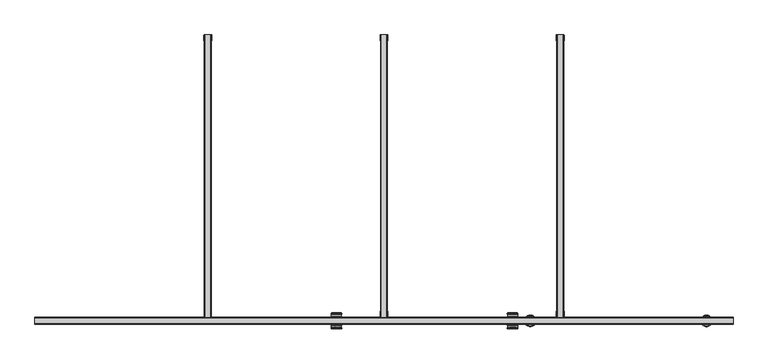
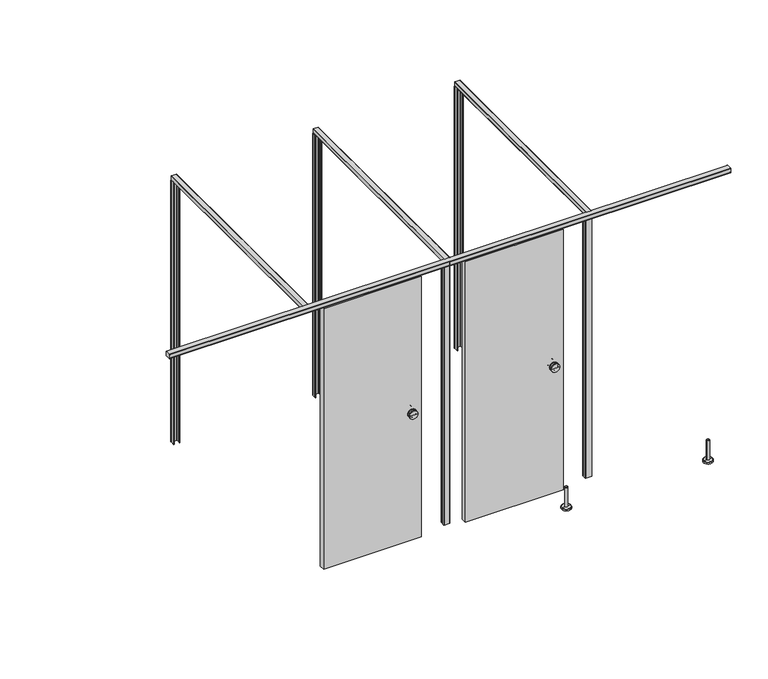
"""IFC4 building model written with IfcOpenShell, lengths in millimetres: proxy geometry, Partition_EuroStyle-Bradley_Corp-4StandardStall-NEP-LOFT : Partition_EuroStyle-Bradley_Corp-4StandardStall-NEP-LOFT."""

from ifc_helpers import new_model, si_unit, point, frame, frame_2d, origin, place, context, project, spatial, polyline, circle_curve, ellipse_curve, trimmed, segment, composite_curve, outline, extrude, source, transform, mapped, element, save
from ifc_brep_helpers import plane_surface, cylinder_surface, revolved_surface, advanced_brep


def specialty_equipment_258c1c85(model_context):
    return source(origin(), model_context, "Body", "SolidModel", [
        extrude(outline(composite_curve([segment(polyline([(2685.7288796, -1491.4999998), (2687.2274652, -1491.4999998)]), True, "CONTINUOUS"), segment(trimmed(circle_curve(frame_2d((2687.2238978, -1492.4990918)), 0.9990984), [point((2687.2274652, -1491.4999998))], [point((2687.6975504, -1493.3787798))], False, "CARTESIAN"), True, "CONTINUOUS"), segment(polyline([(2687.6975504, -1493.3787798), (2687.5764404, -1500.6424298)]), True, "CONTINUOUS"), segment(trimmed(circle_curve(frame_2d((2687.0588945, -1501.4999449)), 1.0015917), [point((2687.5764404, -1500.6424298))], [point((2687.5475604, -1502.3742398))], False, "CARTESIAN"), True, "CONTINUOUS"), segment(polyline([(2687.5475604, -1502.3742398), (2687.2535049, -1520.0104531)]), True, "CONTINUOUS"), segment(trimmed(circle_curve(frame_2d((2689.2536968, -1519.9997796)), 2.0002204), [point((2687.2535049, -1520.0104531))], [point((2689.2536968, -1522.0))], True, "CARTESIAN"), True, "CONTINUOUS"), segment(polyline([(2689.2536968, -1522.0), (2723.1379958, -1522.0)]), True, "CONTINUOUS"), segment(trimmed(circle_curve(frame_2d((2723.1870154, -1520.0009061)), 1.9996948), [point((2723.1379958, -1522.0))], [point((2725.18671, -1520.0))], True, "CARTESIAN"), True, "CONTINUOUS"), segment(polyline([(2725.18671, -1520.0), (2724.8926587, -1502.3739987)]), True, "CONTINUOUS"), segment(trimmed(circle_curve(frame_2d((2725.3817558, -1501.4999449)), 1.0015917), [point((2724.8926587, -1502.3739987))], [point((2724.8642099, -1500.6424298))], False, "CARTESIAN"), True, "CONTINUOUS"), segment(polyline([(2724.8642099, -1500.6424298), (2724.7430999, -1493.3787798)]), True, "CONTINUOUS"), segment(trimmed(circle_curve(frame_2d((2725.2167525, -1492.4990918)), 0.9990984), [point((2724.7430999, -1493.3787798))], [point((2725.2131851, -1491.4999998))], False, "CARTESIAN"), True, "CONTINUOUS"), segment(polyline([(2725.2131851, -1491.4999998), (2726.7117707, -1491.4999998), (2727.2201098, -1521.97082)]), True, "CONTINUOUS"), segment(trimmed(circle_curve(frame_2d((2725.1909298, -1521.97082)), 2.02918), [point((2727.2201098, -1521.97082))], [point((2725.1909298, -1524.0))], False, "CARTESIAN"), True, "CONTINUOUS"), segment(polyline([(2725.1909298, -1524.0), (2687.2497205, -1524.0)]), True, "CONTINUOUS"), segment(trimmed(circle_curve(frame_2d((2687.2497205, -1521.97082)), 2.02918), [point((2687.2497205, -1524.0))], [point((2685.2205405, -1521.97082))], False, "CARTESIAN"), True, "CONTINUOUS"), segment(polyline([(2685.2205405, -1521.97082), (2685.7288796, -1491.4999998)]), True, "CONTINUOUS")], self_intersect=False)), frame((0.0, 0.0, 150.0), z_axis=(0.0, 0.0, 1.0), x_axis=(1.0, 0.0, 0.0)), (0.0, 0.0, 1.0), 1855.0),
        advanced_brep(
        [(3486.2453255, -1541.9996549, 150.0000008), (3504.2453248, -1541.9996549, 150.0000008), (3504.2453248, -1541.9996549, 12.0000001), (3486.2453255, -1541.9996549, 12.0000001), (3495.2453251, -1541.9996549, 150.0000008), (3464.2453262, -1541.9996549, 0.0), (3526.2453241, -1541.9996549, 0.0), (3495.2453251, -1541.9996549, 0.0), (3464.2453262, -1541.9996549, 10.0000001), (3526.2453241, -1541.9996549, 10.0000001), (3466.2477381, -1541.9996549, 12.0000001), (3524.2429122, -1541.9996549, 12.0000001)],
        [
            (0, 1, circle_curve(frame((3495.2453251, -1541.9996549, 150.0000008), z_axis=(0.0, 0.0, -1.0), x_axis=(1.0, 0.0, 0.0)), 8.9999997)),
            (1, 2),
            (2, 3, circle_curve(frame((3495.2453251, -1541.9996549, 12.0000001), z_axis=(0.0, 0.0, 1.0), x_axis=(1.0, 0.0, 0.0)), 8.9999997)),
            (3, 0),
            (1, 0, circle_curve(frame((3495.2453251, -1541.9996549, 150.0000008), z_axis=(0.0, 0.0, -1.0), x_axis=(1.0, 0.0, 0.0)), 8.9999997)),
            (3, 2, circle_curve(frame((3495.2453251, -1541.9996549, 12.0000001), z_axis=(0.0, 0.0, 1.0), x_axis=(1.0, 0.0, 0.0)), 8.9999997)),
            (4, 1),
            (0, 4),
            (5, 6, circle_curve(frame((3495.2453251, -1541.9996549, 0.0), z_axis=(0.0, 0.0, -1.0), x_axis=(1.0, 0.0, 0.0)), 30.9999989)),
            (6, 7),
            (7, 5),
            (6, 5, circle_curve(frame((3495.2453251, -1541.9996549, 0.0), z_axis=(0.0, 0.0, -1.0), x_axis=(1.0, 0.0, 0.0)), 30.9999989)),
            (8, 9, circle_curve(frame((3495.2453251, -1541.9996549, 10.0000001), z_axis=(0.0, 0.0, -1.0), x_axis=(1.0, 0.0, 0.0)), 30.9999989)),
            (9, 6),
            (5, 8),
            (9, 8, circle_curve(frame((3495.2453251, -1541.9996549, 10.0000001), z_axis=(0.0, 0.0, -1.0), x_axis=(1.0, 0.0, 0.0)), 30.9999989)),
            (10, 11, circle_curve(frame((3495.2453251, -1541.9996549, 12.0000001), z_axis=(0.0, 0.0, -1.0), x_axis=(1.0, 0.0, 0.0)), 28.997587)),
            (11, 9),
            (8, 10),
            (11, 10, circle_curve(frame((3495.2453251, -1541.9996549, 12.0000001), z_axis=(0.0, 0.0, -1.0), x_axis=(1.0, 0.0, 0.0)), 28.997587)),
            (2, 11),
            (10, 3),
        ],
        [
            cylinder_surface(frame((3495.2453251, -1541.9996549, 0.0), z_axis=(0.0, 0.0, 1.0), x_axis=(1.0, 0.0, 0.0)), 8.9999997),
            plane_surface(frame((3495.2453251, -1541.9996549, 150.0000008), z_axis=(0.0, 0.0, 1.0), x_axis=(1.0, 0.0, 0.0))),
            plane_surface(frame((3495.2453251, -1541.9996549, 0.0), z_axis=(0.0, 0.0, -1.0), x_axis=(1.0, 0.0, 0.0))),
            cylinder_surface(frame((3495.2453251, -1541.9996549, 0.0), z_axis=(0.0, 0.0, 1.0), x_axis=(1.0, 0.0, 0.0)), 30.9999989),
            revolved_surface(polyline([(3526.2453241, -1541.9996549, 10.0000001), (3524.2429122, -1541.9996549, 12.0000001)]), (3495.2453251, -1541.9996549, 0.0), (0.0, 0.0, 1.0)),
            plane_surface(frame((3495.2453251, -1541.9996549, 12.0000001), z_axis=(0.0, 0.0, 1.0), x_axis=(1.0, 0.0, 0.0))),
        ],
        [
            (0, [[1, 2, 3, 4]]),
            (0, [[5, -4, 6, -2]]),
            (1, [[7, -1, 8]]),
            (1, [[-8, -5, -7]]),
            (2, [[9, 10, 11]]),
            (2, [[12, -11, -10]]),
            (3, [[13, 14, -9, 15]]),
            (3, [[16, -15, -12, -14]]),
            (4, [[17, 18, -13, 19]]),
            (4, [[20, -19, -16, -18]]),
            (5, [[-3, 21, -17, 22]]),
            (5, [[-6, -22, -20, -21]]),
        ],
    ),
        extrude(outline(composite_curve([segment(polyline([(1735.3288796, -1491.4999998), (1736.8274652, -1491.4999998)]), True, "CONTINUOUS"), segment(trimmed(circle_curve(frame_2d((1736.8238978, -1492.4990918)), 0.9990984), [point((1736.8274652, -1491.4999998))], [point((1737.2975504, -1493.3787798))], False, "CARTESIAN"), True, "CONTINUOUS"), segment(polyline([(1737.2975504, -1493.3787798), (1737.1764404, -1500.6424298)]), True, "CONTINUOUS"), segment(trimmed(circle_curve(frame_2d((1736.6588945, -1501.4999449)), 1.0015917), [point((1737.1764404, -1500.6424298))], [point((1737.1475604, -1502.3742398))], False, "CARTESIAN"), True, "CONTINUOUS"), segment(polyline([(1737.1475604, -1502.3742398), (1736.8535049, -1520.0104531)]), True, "CONTINUOUS"), segment(trimmed(circle_curve(frame_2d((1738.8536968, -1519.9997796)), 2.0002204), [point((1736.8535049, -1520.0104531))], [point((1738.8536968, -1522.0))], True, "CARTESIAN"), True, "CONTINUOUS"), segment(polyline([(1738.8536968, -1522.0), (1772.7379958, -1522.0)]), True, "CONTINUOUS"), segment(trimmed(circle_curve(frame_2d((1772.7870154, -1520.0009061)), 1.9996948), [point((1772.7379958, -1522.0))], [point((1774.78671, -1520.0))], True, "CARTESIAN"), True, "CONTINUOUS"), segment(polyline([(1774.78671, -1520.0), (1774.4926587, -1502.3739987)]), True, "CONTINUOUS"), segment(trimmed(circle_curve(frame_2d((1774.9817558, -1501.4999449)), 1.0015917), [point((1774.4926587, -1502.3739987))], [point((1774.4642099, -1500.6424298))], False, "CARTESIAN"), True, "CONTINUOUS"), segment(polyline([(1774.4642099, -1500.6424298), (1774.3430999, -1493.3787798)]), True, "CONTINUOUS"), segment(trimmed(circle_curve(frame_2d((1774.8167525, -1492.4990918)), 0.9990984), [point((1774.3430999, -1493.3787798))], [point((1774.8131851, -1491.4999998))], False, "CARTESIAN"), True, "CONTINUOUS"), segment(polyline([(1774.8131851, -1491.4999998), (1776.3117707, -1491.4999998), (1776.8201098, -1521.97082)]), True, "CONTINUOUS"), segment(trimmed(circle_curve(frame_2d((1774.7909298, -1521.97082)), 2.02918), [point((1776.8201098, -1521.97082))], [point((1774.7909298, -1524.0))], False, "CARTESIAN"), True, "CONTINUOUS"), segment(polyline([(1774.7909298, -1524.0), (1736.8497205, -1524.0)]), True, "CONTINUOUS"), segment(trimmed(circle_curve(frame_2d((1736.8497205, -1521.97082)), 2.02918), [point((1736.8497205, -1524.0))], [point((1734.8205405, -1521.97082))], False, "CARTESIAN"), True, "CONTINUOUS"), segment(polyline([(1734.8205405, -1521.97082), (1735.3288796, -1491.4999998)]), True, "CONTINUOUS")], self_intersect=False)), frame((0.0, 0.0, 150.0), z_axis=(0.0, 0.0, 1.0), x_axis=(1.0, 0.0, 0.0)), (0.0, 0.0, 1.0), 1855.0),
        advanced_brep(
        [(2420.8451766, -1524.0098174, 1050.0), (2477.9951766, -1524.0098174, 1050.0), (2449.4201766, -1524.0098174, 1050.0), (2420.8451766, -1519.2473174, 1050.0), (2477.9951766, -1519.2473174, 1050.0), (2420.8451766, -1500.1973174, 1050.0), (2477.9951766, -1500.1973174, 1050.0), (2477.9951766, -1504.9598174, 1050.0), (2420.8451766, -1504.9598174, 1050.0), (2476.4076766, -1506.5473174, 1050.0), (2422.4326766, -1506.5473174, 1050.0), (2476.4076766, -1517.6598174, 1050.0), (2422.4326766, -1517.6598174, 1050.0), (2449.4201766, -1498.6098174, 1050.0)],
        [
            (0, 1, circle_curve(frame((2449.4201766, -1524.0098174, 1050.0), z_axis=(0.0, -1.0, 0.0), x_axis=(1.0000000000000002, 0.0, 0.0)), 28.575)),
            (1, 2),
            (2, 0),
            (1, 0, circle_curve(frame((2449.4201766, -1524.0098174, 1050.0), z_axis=(0.0, -1.0, 0.0), x_axis=(1.0000000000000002, 0.0, 0.0)), 28.575)),
            (3, 4, circle_curve(frame((2449.4201766, -1519.2473174, 1050.0), z_axis=(0.0, -1.0, 0.0), x_axis=(1.0000000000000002, 0.0, 0.0)), 28.575)),
            (4, 1),
            (0, 3),
            (4, 3, circle_curve(frame((2449.4201766, -1519.2473174, 1050.0), z_axis=(0.0, -1.0, 0.0), x_axis=(1.0000000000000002, 0.0, 0.0)), 28.575)),
            (5, 6, circle_curve(frame((2449.4201766, -1500.1973174, 1050.0), z_axis=(0.0, -1.0, 0.0), x_axis=(1.0000000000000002, 0.0, 0.0)), 28.575)),
            (6, 7),
            (7, 8, circle_curve(frame((2449.4201766, -1504.9598174, 1050.0), z_axis=(0.0, 1.0, 0.0), x_axis=(1.0000000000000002, 0.0, 0.0)), 28.575)),
            (8, 5),
            (6, 5, circle_curve(frame((2449.4201766, -1500.1973174, 1050.0), z_axis=(0.0, -1.0, 0.0), x_axis=(1.0000000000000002, 0.0, 0.0)), 28.575)),
            (8, 7, circle_curve(frame((2449.4201766, -1504.9598174, 1050.0), z_axis=(0.0, 1.0, 0.0), x_axis=(1.0000000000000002, 0.0, 0.0)), 28.575)),
            (7, 9, circle_curve(frame((2477.9951766, -1506.5473174, 1050.0), z_axis=(0.0, 0.0, 1.0), x_axis=(1.0000000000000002, 0.0, 0.0)), 1.5875)),
            (9, 10, circle_curve(frame((2449.4201766, -1506.5473174, 1050.0), z_axis=(0.0, 1.0, 0.0), x_axis=(1.0000000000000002, 0.0, 0.0)), 26.9875)),
            (10, 8, circle_curve(frame((2420.8451766, -1506.5473174, 1050.0), z_axis=(0.0, 0.0, 1.0), x_axis=(-1.0000000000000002, 0.0, 0.0)), 1.5875)),
            (10, 9, circle_curve(frame((2449.4201766, -1506.5473174, 1050.0), z_axis=(0.0, 1.0, 0.0), x_axis=(1.0000000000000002, 0.0, 0.0)), 26.9875)),
            (9, 11),
            (11, 12, circle_curve(frame((2449.4201766, -1517.6598174, 1050.0), z_axis=(0.0, 1.0, 0.0), x_axis=(1.0000000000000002, 0.0, 0.0)), 26.9875)),
            (12, 10),
            (12, 11, circle_curve(frame((2449.4201766, -1517.6598174, 1050.0), z_axis=(0.0, 1.0, 0.0), x_axis=(1.0000000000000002, 0.0, 0.0)), 26.9875)),
            (11, 4, circle_curve(frame((2477.9951766, -1517.6598174, 1050.0), z_axis=(0.0, 0.0, 1.0), x_axis=(1.0000000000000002, 0.0, 0.0)), 1.5875)),
            (3, 12, circle_curve(frame((2420.8451766, -1517.6598174, 1050.0), z_axis=(0.0, 0.0, 1.0), x_axis=(-1.0000000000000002, 0.0, 0.0)), 1.5875)),
            (13, 6, circle_curve(frame((2453.1143, -1690.0843466, 1050.0), z_axis=(0.0, 0.0, -1.0), x_axis=(1.0000000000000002, 0.0, 0.0)), 191.5101613)),
            (5, 13, circle_curve(frame((2445.7260533, -1690.0843466, 1050.0), z_axis=(0.0, 0.0, -1.0), x_axis=(-1.0000000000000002, 0.0, 0.0)), 191.5101613)),
        ],
        [
            plane_surface(frame((2449.4201766, -1524.0098174, 1050.0), z_axis=(0.0, -1.0, 0.0), x_axis=(1.0, 0.0, 0.0))),
            cylinder_surface(frame((2449.4201766, -1524.0098174, 1050.0), z_axis=(0.0, 1.0000000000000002, 0.0), x_axis=(1.0000000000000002, 0.0, 0.0)), 28.575),
            revolved_surface(trimmed(ellipse_curve(frame((2477.9951766, -1506.5473174, 1050.0), z_axis=(0.0, 0.0, -1.0), x_axis=(1.0000000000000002, 0.0, 0.0)), 1.5875, 1.5875), [point((2476.4076766, -1506.5473174, 1050.0))], [point((2477.9951766, -1504.9598174, 1050.0))], True, "CARTESIAN"), (2449.4201766, -1524.0098174, 1050.0), (0.0, 1.0000000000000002, 0.0)),
            cylinder_surface(frame((2449.4201766, -1524.0098174, 1050.0), z_axis=(0.0, 1.0000000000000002, 0.0), x_axis=(1.0000000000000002, 0.0, 0.0)), 26.9875),
            revolved_surface(trimmed(ellipse_curve(frame((2477.9951766, -1517.6598174, 1050.0), z_axis=(0.0, 0.0, -1.0), x_axis=(1.0000000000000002, 0.0, 0.0)), 1.5875, 1.5875), [point((2477.9951766, -1519.2473174, 1050.0))], [point((2476.4076766, -1517.6598174, 1050.0))], True, "CARTESIAN"), (2449.4201766, -1524.0098174, 1050.0), (0.0, 1.0000000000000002, 0.0)),
            revolved_surface(trimmed(ellipse_curve(frame((2453.1143, -1690.0843466, 1050.0), z_axis=(0.0, 0.0, 1.0), x_axis=(1.0000000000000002, 0.0, 0.0)), 191.5101613, 191.5101613), [point((2477.9951766, -1500.1973174, 1050.0))], [point((2449.4201766, -1498.6098174, 1050.0))], True, "CARTESIAN"), (2449.4201766, -1524.0098174, 1050.0), (0.0, 1.0000000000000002, 0.0)),
        ],
        [
            (0, [[1, 2, 3]]),
            (0, [[4, -3, -2]]),
            (1, [[5, 6, -1, 7]]),
            (1, [[8, -7, -4, -6]]),
            (1, [[9, 10, 11, 12]]),
            (1, [[13, -12, 14, -10]]),
            (2, [[-11, 15, 16, 17]]),
            (2, [[-14, -17, 18, -15]]),
            (3, [[-16, 19, 20, 21]]),
            (3, [[-18, -21, 22, -19]]),
            (4, [[-20, 23, -5, 24]]),
            (4, [[-22, -24, -8, -23]]),
            (5, [[25, -9, 26]]),
            (5, [[-26, -13, -25]]),
        ],
    ),
        advanced_brep(
        [(2449.4201766, -1560.0098174, 1050.0), (2477.9951766, -1560.0098174, 1050.0), (2420.8451766, -1560.0098174, 1050.0), (2477.9951766, -1564.7723174, 1050.0), (2420.8451766, -1564.7723174, 1050.0), (2420.8451766, -1579.0598174, 1050.0), (2477.9951766, -1579.0598174, 1050.0), (2477.9951766, -1583.8223174, 1050.0), (2420.8451766, -1583.8223174, 1050.0), (2422.4326766, -1577.4723174, 1050.0), (2476.4076766, -1577.4723174, 1050.0), (2422.4326766, -1566.3598174, 1050.0), (2476.4076766, -1566.3598174, 1050.0), (2449.4201766, -1585.4098174, 1050.0)],
        [
            (0, 1),
            (1, 2, circle_curve(frame((2449.4201766, -1560.0098174, 1050.0), z_axis=(0.0, 1.0, 0.0), x_axis=(1.0000000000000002, 0.0, 0.0)), 28.575)),
            (2, 0),
            (2, 1, circle_curve(frame((2449.4201766, -1560.0098174, 1050.0), z_axis=(0.0, 1.0, 0.0), x_axis=(1.0000000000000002, 0.0, 0.0)), 28.575)),
            (1, 3),
            (3, 4, circle_curve(frame((2449.4201766, -1564.7723174, 1050.0), z_axis=(0.0, 1.0, 0.0), x_axis=(1.0000000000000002, 0.0, 0.0)), 28.575)),
            (4, 2),
            (4, 3, circle_curve(frame((2449.4201766, -1564.7723174, 1050.0), z_axis=(0.0, 1.0, 0.0), x_axis=(1.0000000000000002, 0.0, 0.0)), 28.575)),
            (5, 6, circle_curve(frame((2449.4201766, -1579.0598174, 1050.0), z_axis=(0.0, -1.0, 0.0), x_axis=(1.0000000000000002, 0.0, 0.0)), 28.575)),
            (6, 7),
            (7, 8, circle_curve(frame((2449.4201766, -1583.8223174, 1050.0), z_axis=(0.0, 1.0, 0.0), x_axis=(1.0000000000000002, 0.0, 0.0)), 28.575)),
            (8, 5),
            (6, 5, circle_curve(frame((2449.4201766, -1579.0598174, 1050.0), z_axis=(0.0, -1.0, 0.0), x_axis=(1.0000000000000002, 0.0, 0.0)), 28.575)),
            (8, 7, circle_curve(frame((2449.4201766, -1583.8223174, 1050.0), z_axis=(0.0, 1.0, 0.0), x_axis=(1.0000000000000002, 0.0, 0.0)), 28.575)),
            (9, 10, circle_curve(frame((2449.4201766, -1577.4723174, 1050.0), z_axis=(0.0, -1.0, 0.0), x_axis=(1.0000000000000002, 0.0, 0.0)), 26.9875)),
            (10, 6, circle_curve(frame((2477.9951766, -1577.4723174, 1050.0), z_axis=(0.0, 0.0, 1.0), x_axis=(1.0000000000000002, 0.0, 0.0)), 1.5875)),
            (5, 9, circle_curve(frame((2420.8451766, -1577.4723174, 1050.0), z_axis=(0.0, 0.0, 1.0), x_axis=(-1.0000000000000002, 0.0, 0.0)), 1.5875)),
            (10, 9, circle_curve(frame((2449.4201766, -1577.4723174, 1050.0), z_axis=(0.0, -1.0, 0.0), x_axis=(1.0000000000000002, 0.0, 0.0)), 26.9875)),
            (11, 12, circle_curve(frame((2449.4201766, -1566.3598174, 1050.0), z_axis=(0.0, -1.0, 0.0), x_axis=(1.0000000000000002, 0.0, 0.0)), 26.9875)),
            (12, 10),
            (9, 11),
            (12, 11, circle_curve(frame((2449.4201766, -1566.3598174, 1050.0), z_axis=(0.0, -1.0, 0.0), x_axis=(1.0000000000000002, 0.0, 0.0)), 26.9875)),
            (3, 12, circle_curve(frame((2477.9951766, -1566.3598174, 1050.0), z_axis=(0.0, 0.0, 1.0), x_axis=(1.0000000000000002, 0.0, 0.0)), 1.5875)),
            (11, 4, circle_curve(frame((2420.8451766, -1566.3598174, 1050.0), z_axis=(0.0, 0.0, 1.0), x_axis=(-1.0000000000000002, 0.0, 0.0)), 1.5875)),
            (7, 13, circle_curve(frame((2453.1143, -1393.9352882, 1050.0), z_axis=(0.0, 0.0, -1.0), x_axis=(1.0000000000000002, 0.0, 0.0)), 191.5101613)),
            (13, 8, circle_curve(frame((2445.7260533, -1393.9352882, 1050.0), z_axis=(0.0, 0.0, -1.0), x_axis=(-1.0000000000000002, 0.0, 0.0)), 191.5101613)),
        ],
        [
            plane_surface(frame((2449.4201766, -1560.0098174, 1050.0), z_axis=(0.0, 1.0, 0.0), x_axis=(1.0, 0.0, 0.0))),
            cylinder_surface(frame((2449.4201766, -1560.0098174, 1050.0), z_axis=(0.0, 1.0000000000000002, 0.0), x_axis=(1.0000000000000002, 0.0, 0.0)), 28.575),
            revolved_surface(trimmed(ellipse_curve(frame((2477.9951766, -1577.4723174, 1050.0), z_axis=(0.0, 0.0, -1.0), x_axis=(1.0000000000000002, 0.0, 0.0)), 1.5875, 1.5875), [point((2477.9951766, -1579.0598174, 1050.0))], [point((2476.4076766, -1577.4723174, 1050.0))], True, "CARTESIAN"), (2449.4201766, -1560.0098174, 1050.0), (0.0, 1.0000000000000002, 0.0)),
            cylinder_surface(frame((2449.4201766, -1560.0098174, 1050.0), z_axis=(0.0, 1.0000000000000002, 0.0), x_axis=(1.0000000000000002, 0.0, 0.0)), 26.9875),
            revolved_surface(trimmed(ellipse_curve(frame((2477.9951766, -1566.3598174, 1050.0), z_axis=(0.0, 0.0, -1.0), x_axis=(1.0000000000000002, 0.0, 0.0)), 1.5875, 1.5875), [point((2476.4076766, -1566.3598174, 1050.0))], [point((2477.9951766, -1564.7723174, 1050.0))], True, "CARTESIAN"), (2449.4201766, -1560.0098174, 1050.0), (0.0, 1.0000000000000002, 0.0)),
            revolved_surface(trimmed(ellipse_curve(frame((2453.1143, -1393.9352882, 1050.0), z_axis=(0.0, 0.0, 1.0), x_axis=(1.0000000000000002, 0.0, 0.0)), 191.5101613, 191.5101613), [point((2449.4201766, -1585.4098174, 1050.0))], [point((2477.9951766, -1583.8223174, 1050.0))], True, "CARTESIAN"), (2449.4201766, -1560.0098174, 1050.0), (0.0, 1.0000000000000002, 0.0)),
        ],
        [
            (0, [[1, 2, 3]]),
            (0, [[-3, 4, -1]]),
            (1, [[-2, 5, 6, 7]]),
            (1, [[-4, -7, 8, -5]]),
            (1, [[9, 10, 11, 12]]),
            (1, [[13, -12, 14, -10]]),
            (2, [[15, 16, -9, 17]]),
            (2, [[18, -17, -13, -16]]),
            (3, [[19, 20, -15, 21]]),
            (3, [[22, -21, -18, -20]]),
            (4, [[-6, 23, -19, 24]]),
            (4, [[-8, -24, -22, -23]]),
            (5, [[-11, 25, 26]]),
            (5, [[-14, -26, -25]]),
        ],
    ),
        extrude(outline(polyline([(1857.8170903, -1523.9894923), (2512.9201766, -1523.9894923), (2512.9201766, -1560.0098174), (1857.8170903, -1560.0098174), (1857.8170903, -1523.9894923)])), frame((0.0, 0.0, 150.0), z_axis=(0.0, 0.0, 1.0), x_axis=(1.0, 0.0, 0.0)), (0.0, 0.0, 1.0), 1846.0),
        extrude(outline(composite_curve([segment(polyline([(2685.7288796, -32.5000002), (2685.2205405, -2.02918)]), True, "CONTINUOUS"), segment(trimmed(circle_curve(frame_2d((2687.2497205, -2.02918)), 2.02918), [point((2685.2205405, -2.02918))], [point((2687.2497205, 0.0))], False, "CARTESIAN"), True, "CONTINUOUS"), segment(polyline([(2687.2497205, 0.0), (2725.1909298, 0.0)]), True, "CONTINUOUS"), segment(trimmed(circle_curve(frame_2d((2725.1909298, -2.02918)), 2.02918), [point((2725.1909298, 0.0))], [point((2727.2201098, -2.02918))], False, "CARTESIAN"), True, "CONTINUOUS"), segment(polyline([(2727.2201098, -2.02918), (2726.7117707, -32.5000002), (2725.2131851, -32.5000002)]), True, "CONTINUOUS"), segment(trimmed(circle_curve(frame_2d((2725.2167525, -31.5009082)), 0.9990984), [point((2725.2131851, -32.5000002))], [point((2724.7430999, -30.6212202))], False, "CARTESIAN"), True, "CONTINUOUS"), segment(polyline([(2724.7430999, -30.6212202), (2724.8642099, -23.3575702)]), True, "CONTINUOUS"), segment(trimmed(circle_curve(frame_2d((2725.3817558, -22.5000551)), 1.0015917), [point((2724.8642099, -23.3575702))], [point((2724.8926587, -21.6260013))], False, "CARTESIAN"), True, "CONTINUOUS"), segment(polyline([(2724.8926587, -21.6260013), (2725.18671, -4.0)]), True, "CONTINUOUS"), segment(trimmed(circle_curve(frame_2d((2723.1870154, -3.9990939)), 1.9996948), [point((2725.18671, -4.0))], [point((2723.1379958, -2.0))], True, "CARTESIAN"), True, "CONTINUOUS"), segment(polyline([(2723.1379958, -2.0), (2689.2536968, -2.0)]), True, "CONTINUOUS"), segment(trimmed(circle_curve(frame_2d((2689.2536968, -4.0002204)), 2.0002204), [point((2689.2536968, -2.0))], [point((2687.2535049, -3.9895469))], True, "CARTESIAN"), True, "CONTINUOUS"), segment(polyline([(2687.2535049, -3.9895469), (2687.5475604, -21.6257602)]), True, "CONTINUOUS"), segment(trimmed(circle_curve(frame_2d((2687.0588945, -22.5000551)), 1.0015917), [point((2687.5475604, -21.6257602))], [point((2687.5764404, -23.3575702))], False, "CARTESIAN"), True, "CONTINUOUS"), segment(polyline([(2687.5764404, -23.3575702), (2687.6975504, -30.6212202)]), True, "CONTINUOUS"), segment(trimmed(circle_curve(frame_2d((2687.2238978, -31.5009082)), 0.9990984), [point((2687.6975504, -30.6212202))], [point((2687.2274652, -32.5000002))], False, "CARTESIAN"), True, "CONTINUOUS"), segment(polyline([(2687.2274652, -32.5000002), (2685.7288796, -32.5000002)]), True, "CONTINUOUS")], self_intersect=False)), frame((0.0, 0.0, 150.0), z_axis=(0.0, 0.0, 1.0), x_axis=(1.0, 0.0, 0.0)), (0.0, 0.0, 1.0), 1855.0),
        extrude(outline(composite_curve([segment(polyline([(2032.9666591, 2688.2203701), (2005.7492965, 2688.6741806)]), True, "CONTINUOUS"), segment(trimmed(circle_curve(frame_2d((2005.762, 2689.4360747)), 0.762), [point((2005.7492965, 2688.6741806))], [point((2005.0, 2689.4360747))], False, "CARTESIAN"), True, "CONTINUOUS"), segment(polyline([(2005.0, 2689.4360747), (2005.0, 2722.9733505)]), True, "CONTINUOUS"), segment(trimmed(circle_curve(frame_2d((2005.79375, 2722.9733505)), 0.79375), [point((2005.0, 2722.9733505))], [point((2005.7805172, 2723.7669902))], False, "CARTESIAN"), True, "CONTINUOUS"), segment(polyline([(2005.7805172, 2723.7669902), (2032.9666591, 2724.2202802)]), True, "CONTINUOUS"), segment(trimmed(circle_curve(frame_2d((2033.0000015, 2722.2205597)), 1.9999985), [point((2032.9666591, 2724.2202802))], [point((2035.0, 2722.2205597))], False, "CARTESIAN"), True, "CONTINUOUS"), segment(polyline([(2035.0, 2722.2205597), (2035.0, 2690.2200907)]), True, "CONTINUOUS"), segment(trimmed(circle_curve(frame_2d((2033.0000015, 2690.2200907)), 1.9999985), [point((2035.0, 2690.2200907))], [point((2032.9666591, 2688.2203701))], False, "CARTESIAN"), True, "CONTINUOUS")], self_intersect=False)), frame((0.0, -1524.0, 0.0), z_axis=(0.0, 1.0, 0.0), x_axis=(0.0, 0.0, 1.0)), (0.0, 0.0, 1.0), 1524.0),
        advanced_brep(
        [(2535.8453255, -1541.9996549, 150.0000008), (2553.8453248, -1541.9996549, 150.0000008), (2553.8453248, -1541.9996549, 12.0000001), (2535.8453255, -1541.9996549, 12.0000001), (2544.8453251, -1541.9996549, 150.0000008), (2513.8453262, -1541.9996549, 0.0), (2575.8453241, -1541.9996549, 0.0), (2544.8453251, -1541.9996549, 0.0), (2513.8453262, -1541.9996549, 10.0000001), (2575.8453241, -1541.9996549, 10.0000001), (2515.8477381, -1541.9996549, 12.0000001), (2573.8429122, -1541.9996549, 12.0000001)],
        [
            (0, 1, circle_curve(frame((2544.8453251, -1541.9996549, 150.0000008), z_axis=(0.0, 0.0, -1.0), x_axis=(1.0, 0.0, 0.0)), 8.9999997)),
            (1, 2),
            (2, 3, circle_curve(frame((2544.8453251, -1541.9996549, 12.0000001), z_axis=(0.0, 0.0, 1.0), x_axis=(1.0, 0.0, 0.0)), 8.9999997)),
            (3, 0),
            (1, 0, circle_curve(frame((2544.8453251, -1541.9996549, 150.0000008), z_axis=(0.0, 0.0, -1.0), x_axis=(1.0, 0.0, 0.0)), 8.9999997)),
            (3, 2, circle_curve(frame((2544.8453251, -1541.9996549, 12.0000001), z_axis=(0.0, 0.0, 1.0), x_axis=(1.0, 0.0, 0.0)), 8.9999997)),
            (4, 1),
            (0, 4),
            (5, 6, circle_curve(frame((2544.8453251, -1541.9996549, 0.0), z_axis=(0.0, 0.0, -1.0), x_axis=(1.0, 0.0, 0.0)), 30.9999989)),
            (6, 7),
            (7, 5),
            (6, 5, circle_curve(frame((2544.8453251, -1541.9996549, 0.0), z_axis=(0.0, 0.0, -1.0), x_axis=(1.0, 0.0, 0.0)), 30.9999989)),
            (8, 9, circle_curve(frame((2544.8453251, -1541.9996549, 10.0000001), z_axis=(0.0, 0.0, -1.0), x_axis=(1.0, 0.0, 0.0)), 30.9999989)),
            (9, 6),
            (5, 8),
            (9, 8, circle_curve(frame((2544.8453251, -1541.9996549, 10.0000001), z_axis=(0.0, 0.0, -1.0), x_axis=(1.0, 0.0, 0.0)), 30.9999989)),
            (10, 11, circle_curve(frame((2544.8453251, -1541.9996549, 12.0000001), z_axis=(0.0, 0.0, -1.0), x_axis=(1.0, 0.0, 0.0)), 28.997587)),
            (11, 9),
            (8, 10),
            (11, 10, circle_curve(frame((2544.8453251, -1541.9996549, 12.0000001), z_axis=(0.0, 0.0, -1.0), x_axis=(1.0, 0.0, 0.0)), 28.997587)),
            (2, 11),
            (10, 3),
        ],
        [
            cylinder_surface(frame((2544.8453251, -1541.9996549, 0.0), z_axis=(0.0, 0.0, 1.0), x_axis=(1.0, 0.0, 0.0)), 8.9999997),
            plane_surface(frame((2544.8453251, -1541.9996549, 150.0000008), z_axis=(0.0, 0.0, 1.0), x_axis=(1.0, 0.0, 0.0))),
            plane_surface(frame((2544.8453251, -1541.9996549, 0.0), z_axis=(0.0, 0.0, -1.0), x_axis=(1.0, 0.0, 0.0))),
            cylinder_surface(frame((2544.8453251, -1541.9996549, 0.0), z_axis=(0.0, 0.0, 1.0), x_axis=(1.0, 0.0, 0.0)), 30.9999989),
            revolved_surface(polyline([(2575.8453241, -1541.9996549, 10.0000001), (2573.8429122, -1541.9996549, 12.0000001)]), (2544.8453251, -1541.9996549, 0.0), (0.0, 0.0, 1.0)),
            plane_surface(frame((2544.8453251, -1541.9996549, 12.0000001), z_axis=(0.0, 0.0, 1.0), x_axis=(1.0, 0.0, 0.0))),
        ],
        [
            (0, [[1, 2, 3, 4]]),
            (0, [[5, -4, 6, -2]]),
            (1, [[7, -1, 8]]),
            (1, [[-8, -5, -7]]),
            (2, [[9, 10, 11]]),
            (2, [[12, -11, -10]]),
            (3, [[13, 14, -9, 15]]),
            (3, [[16, -15, -12, -14]]),
            (4, [[17, 18, -13, 19]]),
            (4, [[20, -19, -16, -18]]),
            (5, [[-3, 21, -17, 22]]),
            (5, [[-6, -22, -20, -21]]),
        ],
    ),
        advanced_brep(
        [(1470.4451766, -1524.0098174, 1050.0), (1527.5951766, -1524.0098174, 1050.0), (1499.0201766, -1524.0098174, 1050.0), (1470.4451766, -1519.2473174, 1050.0), (1527.5951766, -1519.2473174, 1050.0), (1470.4451766, -1500.1973174, 1050.0), (1527.5951766, -1500.1973174, 1050.0), (1527.5951766, -1504.9598174, 1050.0), (1470.4451766, -1504.9598174, 1050.0), (1526.0076766, -1506.5473174, 1050.0), (1472.0326766, -1506.5473174, 1050.0), (1526.0076766, -1517.6598174, 1050.0), (1472.0326766, -1517.6598174, 1050.0), (1499.0201766, -1498.6098174, 1050.0)],
        [
            (0, 1, circle_curve(frame((1499.0201766, -1524.0098174, 1050.0), z_axis=(0.0, -1.0, 0.0), x_axis=(1.0000000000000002, 0.0, 0.0)), 28.575)),
            (1, 2),
            (2, 0),
            (1, 0, circle_curve(frame((1499.0201766, -1524.0098174, 1050.0), z_axis=(0.0, -1.0, 0.0), x_axis=(1.0000000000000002, 0.0, 0.0)), 28.575)),
            (3, 4, circle_curve(frame((1499.0201766, -1519.2473174, 1050.0), z_axis=(0.0, -1.0, 0.0), x_axis=(1.0000000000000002, 0.0, 0.0)), 28.575)),
            (4, 1),
            (0, 3),
            (4, 3, circle_curve(frame((1499.0201766, -1519.2473174, 1050.0), z_axis=(0.0, -1.0, 0.0), x_axis=(1.0000000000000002, 0.0, 0.0)), 28.575)),
            (5, 6, circle_curve(frame((1499.0201766, -1500.1973174, 1050.0), z_axis=(0.0, -1.0, 0.0), x_axis=(1.0000000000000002, 0.0, 0.0)), 28.575)),
            (6, 7),
            (7, 8, circle_curve(frame((1499.0201766, -1504.9598174, 1050.0), z_axis=(0.0, 1.0, 0.0), x_axis=(1.0000000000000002, 0.0, 0.0)), 28.575)),
            (8, 5),
            (6, 5, circle_curve(frame((1499.0201766, -1500.1973174, 1050.0), z_axis=(0.0, -1.0, 0.0), x_axis=(1.0000000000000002, 0.0, 0.0)), 28.575)),
            (8, 7, circle_curve(frame((1499.0201766, -1504.9598174, 1050.0), z_axis=(0.0, 1.0, 0.0), x_axis=(1.0000000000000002, 0.0, 0.0)), 28.575)),
            (7, 9, circle_curve(frame((1527.5951766, -1506.5473174, 1050.0), z_axis=(0.0, 0.0, 1.0), x_axis=(1.0000000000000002, 0.0, 0.0)), 1.5875)),
            (9, 10, circle_curve(frame((1499.0201766, -1506.5473174, 1050.0), z_axis=(0.0, 1.0, 0.0), x_axis=(1.0000000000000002, 0.0, 0.0)), 26.9875)),
            (10, 8, circle_curve(frame((1470.4451766, -1506.5473174, 1050.0), z_axis=(0.0, 0.0, 1.0), x_axis=(-1.0000000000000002, 0.0, 0.0)), 1.5875)),
            (10, 9, circle_curve(frame((1499.0201766, -1506.5473174, 1050.0), z_axis=(0.0, 1.0, 0.0), x_axis=(1.0000000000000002, 0.0, 0.0)), 26.9875)),
            (9, 11),
            (11, 12, circle_curve(frame((1499.0201766, -1517.6598174, 1050.0), z_axis=(0.0, 1.0, 0.0), x_axis=(1.0000000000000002, 0.0, 0.0)), 26.9875)),
            (12, 10),
            (12, 11, circle_curve(frame((1499.0201766, -1517.6598174, 1050.0), z_axis=(0.0, 1.0, 0.0), x_axis=(1.0000000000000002, 0.0, 0.0)), 26.9875)),
            (11, 4, circle_curve(frame((1527.5951766, -1517.6598174, 1050.0), z_axis=(0.0, 0.0, 1.0), x_axis=(1.0000000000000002, 0.0, 0.0)), 1.5875)),
            (3, 12, circle_curve(frame((1470.4451766, -1517.6598174, 1050.0), z_axis=(0.0, 0.0, 1.0), x_axis=(-1.0000000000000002, 0.0, 0.0)), 1.5875)),
            (13, 6, circle_curve(frame((1502.7143, -1690.0843466, 1050.0), z_axis=(0.0, 0.0, -1.0), x_axis=(1.0000000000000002, 0.0, 0.0)), 191.5101613)),
            (5, 13, circle_curve(frame((1495.3260533, -1690.0843466, 1050.0), z_axis=(0.0, 0.0, -1.0), x_axis=(-1.0000000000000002, 0.0, 0.0)), 191.5101613)),
        ],
        [
            plane_surface(frame((1499.0201766, -1524.0098174, 1050.0), z_axis=(0.0, -1.0, 0.0), x_axis=(1.0, 0.0, 0.0))),
            cylinder_surface(frame((1499.0201766, -1524.0098174, 1050.0), z_axis=(0.0, 1.0000000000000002, 0.0), x_axis=(1.0000000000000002, 0.0, 0.0)), 28.575),
            revolved_surface(trimmed(ellipse_curve(frame((1527.5951766, -1506.5473174, 1050.0), z_axis=(0.0, 0.0, -1.0), x_axis=(1.0000000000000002, 0.0, 0.0)), 1.5875, 1.5875), [point((1526.0076766, -1506.5473174, 1050.0))], [point((1527.5951766, -1504.9598174, 1050.0))], True, "CARTESIAN"), (1499.0201766, -1524.0098174, 1050.0), (0.0, 1.0000000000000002, 0.0)),
            cylinder_surface(frame((1499.0201766, -1524.0098174, 1050.0), z_axis=(0.0, 1.0000000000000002, 0.0), x_axis=(1.0000000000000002, 0.0, 0.0)), 26.9875),
            revolved_surface(trimmed(ellipse_curve(frame((1527.5951766, -1517.6598174, 1050.0), z_axis=(0.0, 0.0, -1.0), x_axis=(1.0000000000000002, 0.0, 0.0)), 1.5875, 1.5875), [point((1527.5951766, -1519.2473174, 1050.0))], [point((1526.0076766, -1517.6598174, 1050.0))], True, "CARTESIAN"), (1499.0201766, -1524.0098174, 1050.0), (0.0, 1.0000000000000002, 0.0)),
            revolved_surface(trimmed(ellipse_curve(frame((1502.7143, -1690.0843466, 1050.0), z_axis=(0.0, 0.0, 1.0), x_axis=(1.0000000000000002, 0.0, 0.0)), 191.5101613, 191.5101613), [point((1527.5951766, -1500.1973174, 1050.0))], [point((1499.0201766, -1498.6098174, 1050.0))], True, "CARTESIAN"), (1499.0201766, -1524.0098174, 1050.0), (0.0, 1.0000000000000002, 0.0)),
        ],
        [
            (0, [[1, 2, 3]]),
            (0, [[4, -3, -2]]),
            (1, [[5, 6, -1, 7]]),
            (1, [[8, -7, -4, -6]]),
            (1, [[9, 10, 11, 12]]),
            (1, [[13, -12, 14, -10]]),
            (2, [[-11, 15, 16, 17]]),
            (2, [[-14, -17, 18, -15]]),
            (3, [[-16, 19, 20, 21]]),
            (3, [[-18, -21, 22, -19]]),
            (4, [[-20, 23, -5, 24]]),
            (4, [[-22, -24, -8, -23]]),
            (5, [[25, -9, 26]]),
            (5, [[-26, -13, -25]]),
        ],
    ),
        advanced_brep(
        [(1499.0201766, -1560.0098174, 1050.0), (1527.5951766, -1560.0098174, 1050.0), (1470.4451766, -1560.0098174, 1050.0), (1527.5951766, -1564.7723174, 1050.0), (1470.4451766, -1564.7723174, 1050.0), (1470.4451766, -1579.0598174, 1050.0), (1527.5951766, -1579.0598174, 1050.0), (1527.5951766, -1583.8223174, 1050.0), (1470.4451766, -1583.8223174, 1050.0), (1472.0326766, -1577.4723174, 1050.0), (1526.0076766, -1577.4723174, 1050.0), (1472.0326766, -1566.3598174, 1050.0), (1526.0076766, -1566.3598174, 1050.0), (1499.0201766, -1585.4098174, 1050.0)],
        [
            (0, 1),
            (1, 2, circle_curve(frame((1499.0201766, -1560.0098174, 1050.0), z_axis=(0.0, 1.0, 0.0), x_axis=(1.0000000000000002, 0.0, 0.0)), 28.575)),
            (2, 0),
            (2, 1, circle_curve(frame((1499.0201766, -1560.0098174, 1050.0), z_axis=(0.0, 1.0, 0.0), x_axis=(1.0000000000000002, 0.0, 0.0)), 28.575)),
            (1, 3),
            (3, 4, circle_curve(frame((1499.0201766, -1564.7723174, 1050.0), z_axis=(0.0, 1.0, 0.0), x_axis=(1.0000000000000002, 0.0, 0.0)), 28.575)),
            (4, 2),
            (4, 3, circle_curve(frame((1499.0201766, -1564.7723174, 1050.0), z_axis=(0.0, 1.0, 0.0), x_axis=(1.0000000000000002, 0.0, 0.0)), 28.575)),
            (5, 6, circle_curve(frame((1499.0201766, -1579.0598174, 1050.0), z_axis=(0.0, -1.0, 0.0), x_axis=(1.0000000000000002, 0.0, 0.0)), 28.575)),
            (6, 7),
            (7, 8, circle_curve(frame((1499.0201766, -1583.8223174, 1050.0), z_axis=(0.0, 1.0, 0.0), x_axis=(1.0000000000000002, 0.0, 0.0)), 28.575)),
            (8, 5),
            (6, 5, circle_curve(frame((1499.0201766, -1579.0598174, 1050.0), z_axis=(0.0, -1.0, 0.0), x_axis=(1.0000000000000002, 0.0, 0.0)), 28.575)),
            (8, 7, circle_curve(frame((1499.0201766, -1583.8223174, 1050.0), z_axis=(0.0, 1.0, 0.0), x_axis=(1.0000000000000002, 0.0, 0.0)), 28.575)),
            (9, 10, circle_curve(frame((1499.0201766, -1577.4723174, 1050.0), z_axis=(0.0, -1.0, 0.0), x_axis=(1.0000000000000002, 0.0, 0.0)), 26.9875)),
            (10, 6, circle_curve(frame((1527.5951766, -1577.4723174, 1050.0), z_axis=(0.0, 0.0, 1.0), x_axis=(1.0000000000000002, 0.0, 0.0)), 1.5875)),
            (5, 9, circle_curve(frame((1470.4451766, -1577.4723174, 1050.0), z_axis=(0.0, 0.0, 1.0), x_axis=(-1.0000000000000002, 0.0, 0.0)), 1.5875)),
            (10, 9, circle_curve(frame((1499.0201766, -1577.4723174, 1050.0), z_axis=(0.0, -1.0, 0.0), x_axis=(1.0000000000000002, 0.0, 0.0)), 26.9875)),
            (11, 12, circle_curve(frame((1499.0201766, -1566.3598174, 1050.0), z_axis=(0.0, -1.0, 0.0), x_axis=(1.0000000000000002, 0.0, 0.0)), 26.9875)),
            (12, 10),
            (9, 11),
            (12, 11, circle_curve(frame((1499.0201766, -1566.3598174, 1050.0), z_axis=(0.0, -1.0, 0.0), x_axis=(1.0000000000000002, 0.0, 0.0)), 26.9875)),
            (3, 12, circle_curve(frame((1527.5951766, -1566.3598174, 1050.0), z_axis=(0.0, 0.0, 1.0), x_axis=(1.0000000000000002, 0.0, 0.0)), 1.5875)),
            (11, 4, circle_curve(frame((1470.4451766, -1566.3598174, 1050.0), z_axis=(0.0, 0.0, 1.0), x_axis=(-1.0000000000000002, 0.0, 0.0)), 1.5875)),
            (7, 13, circle_curve(frame((1502.7143, -1393.9352882, 1050.0), z_axis=(0.0, 0.0, -1.0), x_axis=(1.0000000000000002, 0.0, 0.0)), 191.5101613)),
            (13, 8, circle_curve(frame((1495.3260533, -1393.9352882, 1050.0), z_axis=(0.0, 0.0, -1.0), x_axis=(-1.0000000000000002, 0.0, 0.0)), 191.5101613)),
        ],
        [
            plane_surface(frame((1499.0201766, -1560.0098174, 1050.0), z_axis=(0.0, 1.0, 0.0), x_axis=(1.0, 0.0, 0.0))),
            cylinder_surface(frame((1499.0201766, -1560.0098174, 1050.0), z_axis=(0.0, 1.0000000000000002, 0.0), x_axis=(1.0000000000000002, 0.0, 0.0)), 28.575),
            revolved_surface(trimmed(ellipse_curve(frame((1527.5951766, -1577.4723174, 1050.0), z_axis=(0.0, 0.0, -1.0), x_axis=(1.0000000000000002, 0.0, 0.0)), 1.5875, 1.5875), [point((1527.5951766, -1579.0598174, 1050.0))], [point((1526.0076766, -1577.4723174, 1050.0))], True, "CARTESIAN"), (1499.0201766, -1560.0098174, 1050.0), (0.0, 1.0000000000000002, 0.0)),
            cylinder_surface(frame((1499.0201766, -1560.0098174, 1050.0), z_axis=(0.0, 1.0000000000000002, 0.0), x_axis=(1.0000000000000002, 0.0, 0.0)), 26.9875),
            revolved_surface(trimmed(ellipse_curve(frame((1527.5951766, -1566.3598174, 1050.0), z_axis=(0.0, 0.0, -1.0), x_axis=(1.0000000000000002, 0.0, 0.0)), 1.5875, 1.5875), [point((1526.0076766, -1566.3598174, 1050.0))], [point((1527.5951766, -1564.7723174, 1050.0))], True, "CARTESIAN"), (1499.0201766, -1560.0098174, 1050.0), (0.0, 1.0000000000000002, 0.0)),
            revolved_surface(trimmed(ellipse_curve(frame((1502.7143, -1393.9352882, 1050.0), z_axis=(0.0, 0.0, 1.0), x_axis=(1.0000000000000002, 0.0, 0.0)), 191.5101613, 191.5101613), [point((1499.0201766, -1585.4098174, 1050.0))], [point((1527.5951766, -1583.8223174, 1050.0))], True, "CARTESIAN"), (1499.0201766, -1560.0098174, 1050.0), (0.0, 1.0000000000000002, 0.0)),
        ],
        [
            (0, [[1, 2, 3]]),
            (0, [[-3, 4, -1]]),
            (1, [[-2, 5, 6, 7]]),
            (1, [[-4, -7, 8, -5]]),
            (1, [[9, 10, 11, 12]]),
            (1, [[13, -12, 14, -10]]),
            (2, [[15, 16, -9, 17]]),
            (2, [[18, -17, -13, -16]]),
            (3, [[19, 20, -15, 21]]),
            (3, [[22, -21, -18, -20]]),
            (4, [[-6, 23, -19, 24]]),
            (4, [[-8, -24, -22, -23]]),
            (5, [[-11, 25, 26]]),
            (5, [[-14, -26, -25]]),
        ],
    ),
        extrude(outline(polyline([(907.4170903, -1523.9894923), (1562.5201766, -1523.9894923), (1562.5201766, -1560.0098174), (907.4170903, -1560.0098174), (907.4170903, -1523.9894923)])), frame((0.0, 0.0, 150.0), z_axis=(0.0, 0.0, 1.0), x_axis=(1.0, 0.0, 0.0)), (0.0, 0.0, 1.0), 1846.0),
        extrude(outline(composite_curve([segment(polyline([(1735.3288796, -32.5000002), (1734.8205405, -2.02918)]), True, "CONTINUOUS"), segment(trimmed(circle_curve(frame_2d((1736.8497205, -2.02918)), 2.02918), [point((1734.8205405, -2.02918))], [point((1736.8497205, 0.0))], False, "CARTESIAN"), True, "CONTINUOUS"), segment(polyline([(1736.8497205, 0.0), (1774.7909298, 0.0)]), True, "CONTINUOUS"), segment(trimmed(circle_curve(frame_2d((1774.7909298, -2.02918)), 2.02918), [point((1774.7909298, 0.0))], [point((1776.8201098, -2.02918))], False, "CARTESIAN"), True, "CONTINUOUS"), segment(polyline([(1776.8201098, -2.02918), (1776.3117707, -32.5000002), (1774.8131851, -32.5000002)]), True, "CONTINUOUS"), segment(trimmed(circle_curve(frame_2d((1774.8167525, -31.5009082)), 0.9990984), [point((1774.8131851, -32.5000002))], [point((1774.3430999, -30.6212202))], False, "CARTESIAN"), True, "CONTINUOUS"), segment(polyline([(1774.3430999, -30.6212202), (1774.4642099, -23.3575702)]), True, "CONTINUOUS"), segment(trimmed(circle_curve(frame_2d((1774.9817558, -22.5000551)), 1.0015917), [point((1774.4642099, -23.3575702))], [point((1774.4926587, -21.6260013))], False, "CARTESIAN"), True, "CONTINUOUS"), segment(polyline([(1774.4926587, -21.6260013), (1774.78671, -4.0)]), True, "CONTINUOUS"), segment(trimmed(circle_curve(frame_2d((1772.7870154, -3.9990939)), 1.9996948), [point((1774.78671, -4.0))], [point((1772.7379958, -2.0))], True, "CARTESIAN"), True, "CONTINUOUS"), segment(polyline([(1772.7379958, -2.0), (1738.8536968, -2.0)]), True, "CONTINUOUS"), segment(trimmed(circle_curve(frame_2d((1738.8536968, -4.0002204)), 2.0002204), [point((1738.8536968, -2.0))], [point((1736.8535049, -3.9895469))], True, "CARTESIAN"), True, "CONTINUOUS"), segment(polyline([(1736.8535049, -3.9895469), (1737.1475604, -21.6257602)]), True, "CONTINUOUS"), segment(trimmed(circle_curve(frame_2d((1736.6588945, -22.5000551)), 1.0015917), [point((1737.1475604, -21.6257602))], [point((1737.1764404, -23.3575702))], False, "CARTESIAN"), True, "CONTINUOUS"), segment(polyline([(1737.1764404, -23.3575702), (1737.2975504, -30.6212202)]), True, "CONTINUOUS"), segment(trimmed(circle_curve(frame_2d((1736.8238978, -31.5009082)), 0.9990984), [point((1737.2975504, -30.6212202))], [point((1736.8274652, -32.5000002))], False, "CARTESIAN"), True, "CONTINUOUS"), segment(polyline([(1736.8274652, -32.5000002), (1735.3288796, -32.5000002)]), True, "CONTINUOUS")], self_intersect=False)), frame((0.0, 0.0, 150.0), z_axis=(0.0, 0.0, 1.0), x_axis=(1.0, 0.0, 0.0)), (0.0, 0.0, 1.0), 1855.0),
        extrude(outline(composite_curve([segment(polyline([(784.918717, -32.5000002), (784.4103779, -2.02918)]), True, "CONTINUOUS"), segment(trimmed(circle_curve(frame_2d((786.4395579, -2.02918)), 2.02918), [point((784.4103779, -2.02918))], [point((786.4395579, 0.0))], False, "CARTESIAN"), True, "CONTINUOUS"), segment(polyline([(786.4395579, 0.0), (824.3807672, 0.0)]), True, "CONTINUOUS"), segment(trimmed(circle_curve(frame_2d((824.3807672, -2.02918)), 2.02918), [point((824.3807672, 0.0))], [point((826.4099473, -2.02918))], False, "CARTESIAN"), True, "CONTINUOUS"), segment(polyline([(826.4099473, -2.02918), (825.9016081, -32.5000002), (824.4030225, -32.5000002)]), True, "CONTINUOUS"), segment(trimmed(circle_curve(frame_2d((824.4065899, -31.5009082)), 0.9990984), [point((824.4030225, -32.5000002))], [point((823.9329373, -30.6212202))], False, "CARTESIAN"), True, "CONTINUOUS"), segment(polyline([(823.9329373, -30.6212202), (824.0540473, -23.3575702)]), True, "CONTINUOUS"), segment(trimmed(circle_curve(frame_2d((824.5715932, -22.5000551)), 1.0015917), [point((824.0540473, -23.3575702))], [point((824.0824961, -21.6260013))], False, "CARTESIAN"), True, "CONTINUOUS"), segment(polyline([(824.0824961, -21.6260013), (824.3765475, -4.0)]), True, "CONTINUOUS"), segment(trimmed(circle_curve(frame_2d((822.3768528, -3.9990939)), 1.9996948), [point((824.3765475, -4.0))], [point((822.3278332, -2.0))], True, "CARTESIAN"), True, "CONTINUOUS"), segment(polyline([(822.3278332, -2.0), (788.4435342, -2.0)]), True, "CONTINUOUS"), segment(trimmed(circle_curve(frame_2d((788.4435342, -4.0002204)), 2.0002204), [point((788.4435342, -2.0))], [point((786.4433424, -3.9895469))], True, "CARTESIAN"), True, "CONTINUOUS"), segment(polyline([(786.4433424, -3.9895469), (786.7373979, -21.6257602)]), True, "CONTINUOUS"), segment(trimmed(circle_curve(frame_2d((786.248732, -22.5000551)), 1.0015917), [point((786.7373979, -21.6257602))], [point((786.7662779, -23.3575702))], False, "CARTESIAN"), True, "CONTINUOUS"), segment(polyline([(786.7662779, -23.3575702), (786.8873879, -30.6212202)]), True, "CONTINUOUS"), segment(trimmed(circle_curve(frame_2d((786.4137352, -31.5009082)), 0.9990984), [point((786.8873879, -30.6212202))], [point((786.4173026, -32.5000002))], False, "CARTESIAN"), True, "CONTINUOUS"), segment(polyline([(786.4173026, -32.5000002), (784.918717, -32.5000002)]), True, "CONTINUOUS")], self_intersect=False)), frame((0.0, 0.0, 150.0), z_axis=(0.0, 0.0, 1.0), x_axis=(1.0, 0.0, 0.0)), (0.0, 0.0, 1.0), 1855.0),
        extrude(outline(composite_curve([segment(polyline([(2032.9666591, 1737.8203701), (2005.7492965, 1738.2741806)]), True, "CONTINUOUS"), segment(trimmed(circle_curve(frame_2d((2005.762, 1739.0360747)), 0.762), [point((2005.7492965, 1738.2741806))], [point((2005.0, 1739.0360747))], False, "CARTESIAN"), True, "CONTINUOUS"), segment(polyline([(2005.0, 1739.0360747), (2005.0, 1772.5733505)]), True, "CONTINUOUS"), segment(trimmed(circle_curve(frame_2d((2005.79375, 1772.5733505)), 0.79375), [point((2005.0, 1772.5733505))], [point((2005.7805172, 1773.3669902))], False, "CARTESIAN"), True, "CONTINUOUS"), segment(polyline([(2005.7805172, 1773.3669902), (2032.9666591, 1773.8202802)]), True, "CONTINUOUS"), segment(trimmed(circle_curve(frame_2d((2033.0000015, 1771.8205597)), 1.9999985), [point((2032.9666591, 1773.8202802))], [point((2035.0, 1771.8205597))], False, "CARTESIAN"), True, "CONTINUOUS"), segment(polyline([(2035.0, 1771.8205597), (2035.0, 1739.8200907)]), True, "CONTINUOUS"), segment(trimmed(circle_curve(frame_2d((2033.0000015, 1739.8200907)), 1.9999985), [point((2035.0, 1739.8200907))], [point((2032.9666591, 1737.8203701))], False, "CARTESIAN"), True, "CONTINUOUS")], self_intersect=False)), frame((0.0, -1524.0, 0.0), z_axis=(0.0, 1.0, 0.0), x_axis=(0.0, 0.0, 1.0)), (0.0, 0.0, 1.0), 1524.0),
        extrude(outline(composite_curve([segment(polyline([(-1523.9996998, 2032.9666591), (-1524.4535103, 2005.7492965)]), True, "CONTINUOUS"), segment(trimmed(circle_curve(frame_2d((-1525.2154044, 2005.762)), 0.762), [point((-1524.4535103, 2005.7492965))], [point((-1525.2154044, 2005.0))], False, "CARTESIAN"), True, "CONTINUOUS"), segment(polyline([(-1525.2154044, 2005.0), (-1558.7526802, 2005.0)]), True, "CONTINUOUS"), segment(trimmed(circle_curve(frame_2d((-1558.7526802, 2005.79375)), 0.79375), [point((-1558.7526802, 2005.0))], [point((-1559.5463199, 2005.7805172))], False, "CARTESIAN"), True, "CONTINUOUS"), segment(polyline([(-1559.5463199, 2005.7805172), (-1559.9996099, 2032.9666591)]), True, "CONTINUOUS"), segment(trimmed(circle_curve(frame_2d((-1557.9998894, 2033.0000015)), 1.9999985), [point((-1559.9996099, 2032.9666591))], [point((-1557.9998894, 2035.0))], False, "CARTESIAN"), True, "CONTINUOUS"), segment(polyline([(-1557.9998894, 2035.0), (-1525.9994204, 2035.0)]), True, "CONTINUOUS"), segment(trimmed(circle_curve(frame_2d((-1525.9994204, 2033.0000015)), 1.9999985), [point((-1525.9994204, 2035.0))], [point((-1523.9996998, 2032.9666591))], False, "CARTESIAN"), True, "CONTINUOUS")], self_intersect=False)), frame((-127.0, 0.0, 0.0), z_axis=(1.0, 0.0, 0.0), x_axis=(0.0, 1.0, 0.0)), (0.0, 0.0, 1.0), 3765.6203251),
        extrude(outline(composite_curve([segment(polyline([(2032.9666591, 787.4102076), (2005.7492965, 787.8640181)]), True, "CONTINUOUS"), segment(trimmed(circle_curve(frame_2d((2005.762, 788.6259122)), 0.762), [point((2005.7492965, 787.8640181))], [point((2005.0, 788.6259122))], False, "CARTESIAN"), True, "CONTINUOUS"), segment(polyline([(2005.0, 788.6259122), (2005.0, 822.163188)]), True, "CONTINUOUS"), segment(trimmed(circle_curve(frame_2d((2005.79375, 822.163188)), 0.79375), [point((2005.0, 822.163188))], [point((2005.7805172, 822.9568277))], False, "CARTESIAN"), True, "CONTINUOUS"), segment(polyline([(2005.7805172, 822.9568277), (2032.9666591, 823.4101176)]), True, "CONTINUOUS"), segment(trimmed(circle_curve(frame_2d((2033.0000015, 821.4103971)), 1.9999985), [point((2032.9666591, 823.4101176))], [point((2035.0, 821.4103971))], False, "CARTESIAN"), True, "CONTINUOUS"), segment(polyline([(2035.0, 821.4103971), (2035.0, 789.4099281)]), True, "CONTINUOUS"), segment(trimmed(circle_curve(frame_2d((2033.0000015, 789.4099281)), 1.9999985), [point((2035.0, 789.4099281))], [point((2032.9666591, 787.4102076))], False, "CARTESIAN"), True, "CONTINUOUS")], self_intersect=False)), frame((0.0, -1524.0, 0.0), z_axis=(0.0, 1.0, 0.0), x_axis=(0.0, 0.0, 1.0)), (0.0, 0.0, 1.0), 1524.0),
    ])


if __name__ == "__main__":
    model = new_model("IFC4")
    model_context = context("Model", 3, world=origin())
    ifc_project = project(units=[si_unit("LENGTHUNIT", "METRE", prefix="MILLI")], contexts=[model_context])
    site = spatial("IfcSite", under=ifc_project)
    building = spatial("IfcBuilding", under=site)
    placement = place(None, origin())
    specialty_equipment_shape = specialty_equipment_258c1c85(model_context)
    element("IfcBuildingElementProxy", 1, Name="Partition_EuroStyle-Bradley_Corp-4StandardStall-NEP-LOFT : Partition_EuroStyle-Bradley_Corp-4StandardStall-NEP-LOFT", ObjectType="Partition_EuroStyle-Bradley_Corp-4StandardStall-NEP-LOFT : Partition_EuroStyle-Bradley_Corp-4StandardStall-NEP-LOFT", at=placement, inside=building, context=model_context, shape_type="MappedRepresentation", body=[
        mapped(specialty_equipment_shape, transform((0.0, 0.0, 0.0), x_axis=(1.0, 0.0, 0.0), y_axis=(0.0, 1.0, 0.0), z_axis=(0.0, 0.0, 1.0))),
    ])
    save(model, "model.ifc")
